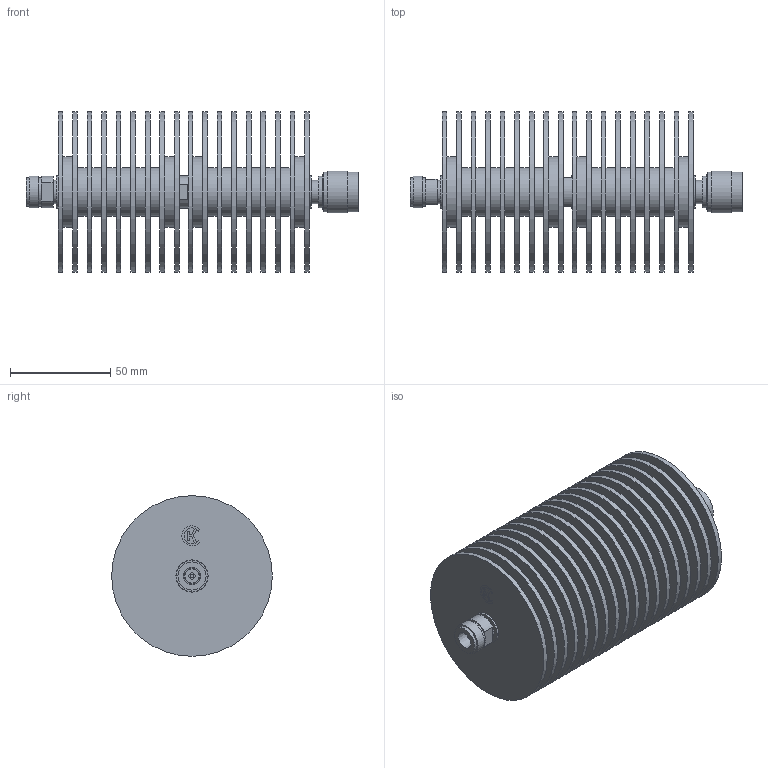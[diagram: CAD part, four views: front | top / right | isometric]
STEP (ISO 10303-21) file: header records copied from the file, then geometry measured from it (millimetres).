
FILE_DESCRIPTION(('STEP AP203'), '1');
FILE_NAME('ÏÐ1-25-100-2-IIIMF', '', ('UNSPECIFIED'), ('UNSPECIFIED'), 'C3D Converter', 'C3D Toolkit', '');
FILE_SCHEMA(('CONFIG_CONTROL_DESIGN'));
Length unit declared in the file: millimetre
Products named in the file (5): -01
Assembly tree (5 placements, depth 2):
  (unnamed)
    (unnamed)
    (unnamed)  x2
    -01
    (unnamed)
Bounding box: 165.4 x 80 x 80 mm (x, y, z)
Volume: 261449.5 mm3; surface area: 187727.9 mm2
Topology: 5 solids, 5 shells, 224 faces, 442 edges, 295 vertices
Faces by surface type: plane 140, cylinder 82, cone 2
Full cylindrical faces by diameter (mm): 1.65 x1, 1.66 x1, 3.04 x2, 7 x2, 8.04 x1, 8.06 x1, 9 x1, 11.6 x2, 12.7 x1, 14 x2, 14.94 x1, 15.75 x1, 15.87 x1, 16 x7, 16.5 x1, 17.46 x1, 17.8 x1, 19.8 x2, 20.85 x1, 24 x12, 35 x4, 80 x18
Entity records: 4984 total; most frequent: DIRECTION 668, CARTESIAN_POINT 575, ORIENTED_EDGE 468, AXIS2_PLACEMENT_3D 281, EDGE_LOOP 240, EDGE_CURVE 234, VERTEX_POINT 188, FACE_BOUND 153
